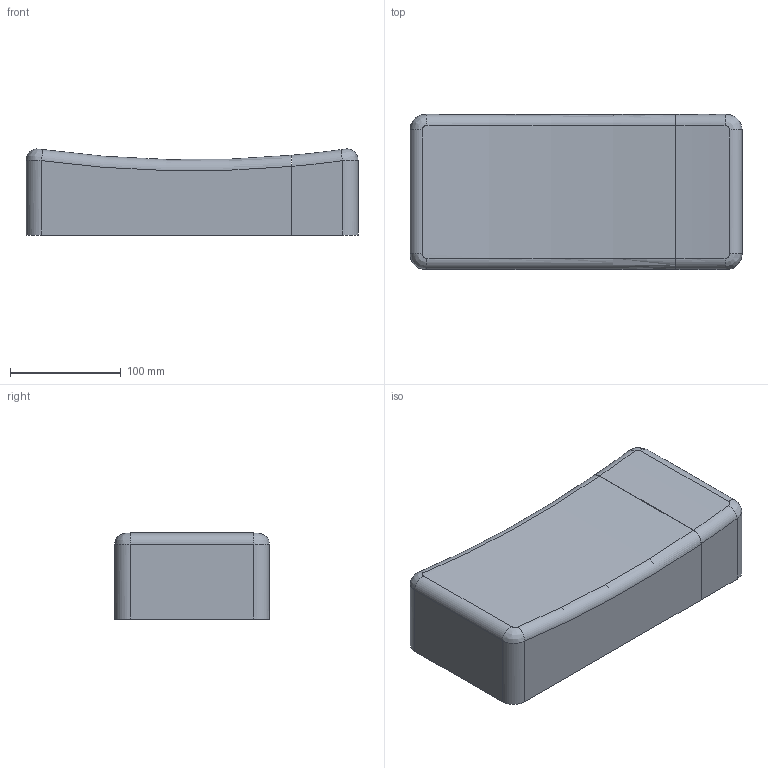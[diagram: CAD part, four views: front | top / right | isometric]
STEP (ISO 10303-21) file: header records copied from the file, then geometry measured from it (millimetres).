
FILE_DESCRIPTION(('Open CASCADE Model'),'2;1');
FILE_NAME('Open CASCADE Shape Model','2026-07-29T21:54:22',('Author'),( 'Open CASCADE'),'Open CASCADE STEP processor 7.9','Open CASCADE 7.9' ,'Unknown');
FILE_SCHEMA(('AUTOMOTIVE_DESIGN { 1 0 10303 214 1 1 1 1 }'));
Length unit declared in the file: millimetre
Products named in the file (11): split_v2_engineering; split_v2_primary_shell; split_v2_end_cap; split_v2_structural_service_panel; split_v2_petg_actuator_spine; split_v2_alignment_pin:rear; split_v2_alignment_pin:front; tt25_8_received_part_envelope; COMPOUND; internal_accelerometer_coupon
Assembly tree (10 placements, depth 3):
  split_v2_engineering
    split_v2_primary_shell
    split_v2_end_cap
    split_v2_structural_service_panel
    split_v2_petg_actuator_spine
    split_v2_alignment_pin:rear
    split_v2_alignment_pin:front
    tt25_8_received_part_envelope
      COMPOUND
      COMPOUND
    internal_accelerometer_coupon
Bounding box: 300 x 140 x 77.75 mm (x, y, z)
Volume: 2117520.6 mm3; surface area: 336012.2 mm2
Topology: 9 solids, 9 shells, 157 faces, 358 edges, 236 vertices
Faces by surface type: plane 81, cylinder 68, bspline 4, torus 4
Full cylindrical faces by diameter (mm): 3.4 x6, 4.5 x6, 5.5 x4, 6 x8, 6.2 x4, 6.4 x4, 8 x1, 14 x1, 67 x1, 104.5 x1
Entity records: 11266 total; most frequent: CARTESIAN_POINT 3630, DIRECTION 1372, ORIENTED_EDGE 716, PCURVE 716, DEFINITIONAL_REPRESENTATION 716, LINE 652, VECTOR 652, EDGE_CURVE 358
